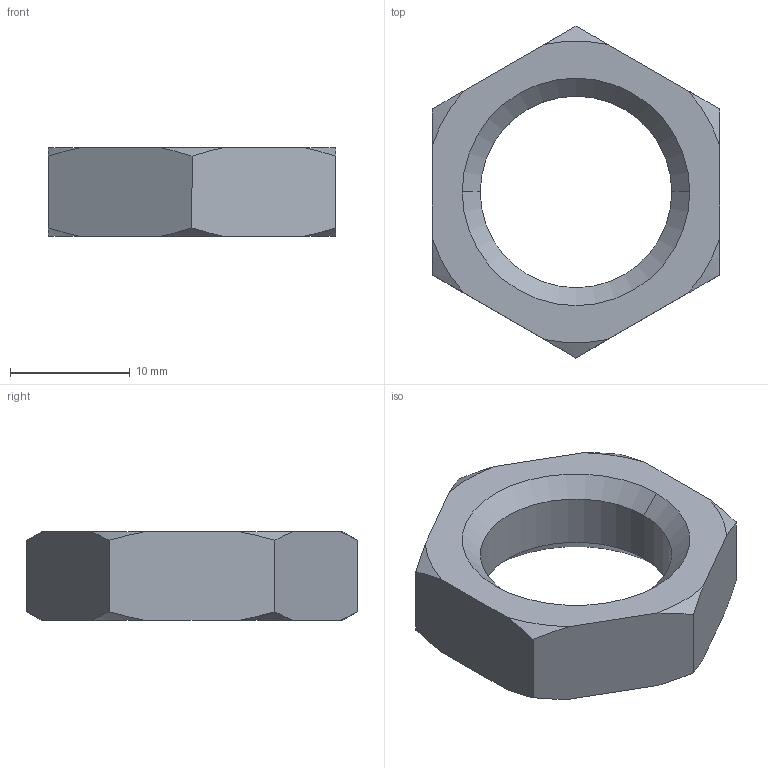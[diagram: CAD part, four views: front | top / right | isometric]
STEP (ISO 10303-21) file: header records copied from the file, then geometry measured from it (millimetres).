
FILE_DESCRIPTION (( 'STEP AP203' ), '1' );
FILE_NAME ('P0306.160-150-A2.step', '2018-12-15T14:54:11', ( '' ), ( '' ), 'SwSTEP 2.0', 'SolidWorks 2017', '' );
FILE_SCHEMA (( 'CONFIG_CONTROL_DESIGN' ));
Length unit declared in the file: millimetre
Products named in the file (1): P0306.160-150-A2
Bounding box: 24 x 27.71 x 7.42 mm (x, y, z)
Volume: 2080.8 mm3; surface area: 1484.2 mm2
Topology: 1 solids, 1 shells, 26 faces, 68 edges, 44 vertices
Faces by surface type: cone 16, plane 8, cylinder 2
Entity records: 913 total; most frequent: CARTESIAN_POINT 219, ORIENTED_EDGE 136, DIRECTION 118, EDGE_CURVE 68, AXIS2_PLACEMENT_3D 47, VERTEX_POINT 44, EDGE_LOOP 28, FACE_OUTER_BOUND 26
